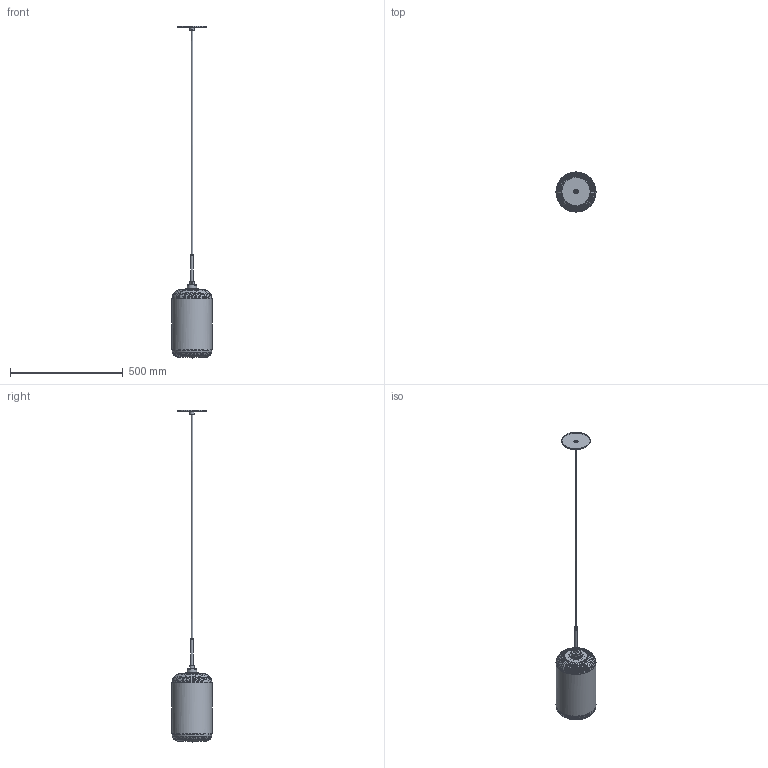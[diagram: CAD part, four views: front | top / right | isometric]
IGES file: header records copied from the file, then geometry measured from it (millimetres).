
Global section: file name: Niche - Pod Pendant; native system: unknown; preprocessor: unknown; author: unknown; organization: unknown; date: 20220727.153105; units: inch
Bounding box: 177.8 x 177.76 x 1474.72 mm (x, y, z)
Volume: 862117.8 mm3; surface area: 510908 mm2
Topology: 11 solids, 11 shells, 211 faces, 620 edges, 435 vertices
Faces by surface type: bspline 211
